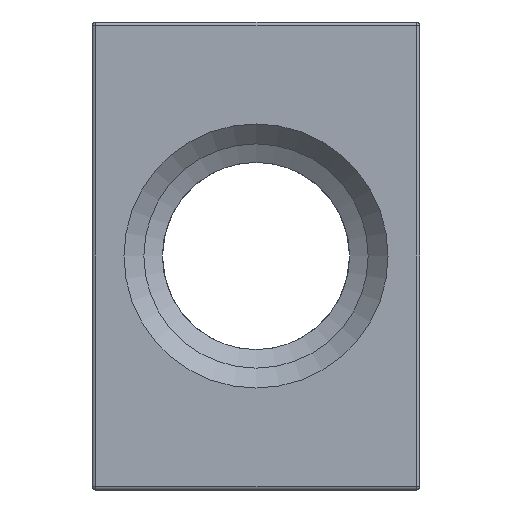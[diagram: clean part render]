
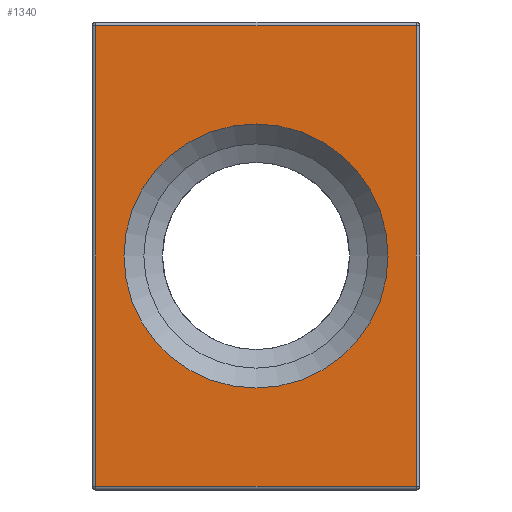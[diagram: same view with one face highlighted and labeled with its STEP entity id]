
A CAD part, left-side view. The second image highlights one B-rep face of the part: STEP entity #1340.
In plain terms, the highlighted planar face has unit normal (-1, 0, 0).
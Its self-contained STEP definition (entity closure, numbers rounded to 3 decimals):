
#77=FACE_BOUND('',#401,.T.);
#88=PLANE('',#1472);
#94=LINE('',#2168,#172);
#100=LINE('',#2198,#178);
#104=LINE('',#2204,#182);
#106=LINE('',#2207,#184);
#172=VECTOR('',#1676,10.);
#178=VECTOR('',#1712,10.);
#182=VECTOR('',#1720,10.);
#184=VECTOR('',#1724,10.);
#312=FACE_OUTER_BOUND('',#400,.T.);
#400=EDGE_LOOP('',(#985,#986,#987,#988));
#401=EDGE_LOOP('',(#989));
#497=CIRCLE('',#1473,11.286);
#568=VERTEX_POINT('',#2136);
#579=VERTEX_POINT('',#2163);
#582=VERTEX_POINT('',#2173);
#586=VERTEX_POINT('',#2190);
#597=VERTEX_POINT('',#2240);
#703=EDGE_CURVE('',#568,#579,#94,.T.);
#718=EDGE_CURVE('',#586,#582,#100,.T.);
#722=EDGE_CURVE('',#579,#586,#104,.T.);
#724=EDGE_CURVE('',#582,#568,#106,.T.);
#741=EDGE_CURVE('',#597,#597,#497,.T.);
#985=ORIENTED_EDGE('',*,*,#718,.F.);
#986=ORIENTED_EDGE('',*,*,#722,.F.);
#987=ORIENTED_EDGE('',*,*,#703,.F.);
#988=ORIENTED_EDGE('',*,*,#724,.F.);
#989=ORIENTED_EDGE('',*,*,#741,.F.);
#1340=ADVANCED_FACE('',(#312,#77),#88,.T.);
#1472=AXIS2_PLACEMENT_3D('',#2239,#1763,#1764);
#1473=AXIS2_PLACEMENT_3D('',#2241,#1765,#1766);
#1676=DIRECTION('',(0.,1.,0.));
#1712=DIRECTION('',(0.,-1.,0.));
#1720=DIRECTION('',(0.,0.,1.));
#1724=DIRECTION('',(0.,0.,-1.));
#1763=DIRECTION('center_axis',(-1.,0.,0.));
#1764=DIRECTION('ref_axis',(0.,0.,1.));
#1765=DIRECTION('center_axis',(-1.,0.,0.));
#1766=DIRECTION('ref_axis',(0.,1.,0.));
#2136=CARTESIAN_POINT('',(-110.,-13.7,-19.7));
#2163=CARTESIAN_POINT('',(-110.,13.7,-19.7));
#2168=CARTESIAN_POINT('',(-110.,0.,-19.7));
#2173=CARTESIAN_POINT('',(-110.,-13.7,19.7));
#2190=CARTESIAN_POINT('',(-110.,13.7,19.7));
#2198=CARTESIAN_POINT('',(-110.,0.,19.7));
#2204=CARTESIAN_POINT('',(-110.,13.7,-10.));
#2207=CARTESIAN_POINT('',(-110.,-13.7,-10.));
#2239=CARTESIAN_POINT('Origin',(-110.,0.,-20.));
#2240=CARTESIAN_POINT('',(-110.,-11.286,0.));
#2241=CARTESIAN_POINT('Origin',(-110.,0.,0.));
